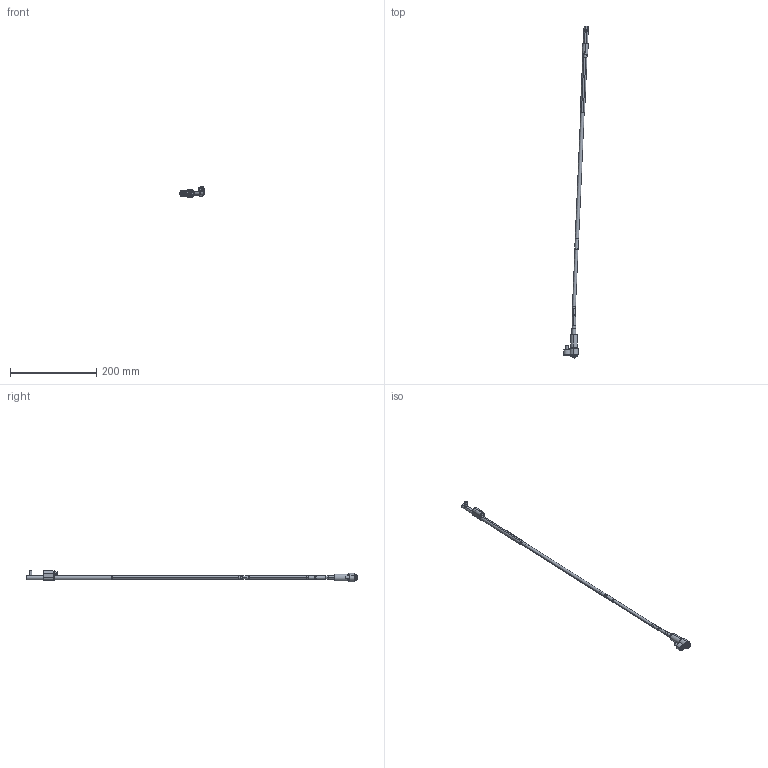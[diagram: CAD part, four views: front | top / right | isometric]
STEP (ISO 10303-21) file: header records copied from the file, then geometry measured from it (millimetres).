
FILE_DESCRIPTION (( 'STEP AP214' ), '1' );
FILE_NAME ('WL080125-EJE 2,5°.STEP', '2021-03-19T15:28:55', ( '' ), ( '' ), 'SwSTEP 2.0', 'SolidWorks 2019', '' );
FILE_SCHEMA (( 'AUTOMOTIVE_DESIGN' ));
Length unit declared in the file: millimetre
Products named in the file (17): WL080125-EJE 2,5°; 3IMAN4X2-150_con sello; Web-WL08-A1; 1DIN912616_DIN 912 M6 x 16 --- 16C; Web-WL08-F01; 1DIN912545_DIN 912 M5 x 50 --- 50C; Web-WL08-A2; Web-WL08-F00.SLDPRT; WL080100-B1_WL0800FF-1; Web-WP08-1; 9DR2206-TOR; WL080100-C; WL080100-D; WL080100-B_WL0800FF; Web-WL08XX-A7_ON-WL080125-2,5; WL080100-E; Web-WL08-A3
Assembly tree (16 placements, depth 3):
  WL080125-EJE 2,5°
    Web-WP08-1
    Web-WL08XX-A7_ON-WL080125-2,5
    Web-WL08-A3
    Web-WL08-A2
    Web-WL08-A1
    WL080100-D
    WL080100-C
    WL080100-B_WL0800FF
      WL080100-B1_WL0800FF-1
      3IMAN4X2-150_con sello
    WL080100-E
    9DR2206-TOR
    Web-WL08-F00.SLDPRT
      Web-WL08-F01
      1DIN912545_DIN 912 M5 x 50 --- 50C
      1DIN912616_DIN 912 M6 x 16 --- 16C
Bounding box: 57.42 x 771.58 x 26.9 mm (x, y, z)
Volume: 58701.6 mm3; surface area: 34416 mm2
Topology: 15 solids, 15 shells, 424 faces, 888 edges, 516 vertices
Faces by surface type: plane 132, cylinder 128, cone 116, torus 48
Entity records: 13492 total; most frequent: DIRECTION 2218, CARTESIAN_POINT 2045, ORIENTED_EDGE 1756, AXIS2_PLACEMENT_3D 921, EDGE_CURVE 878, VERTEX_POINT 516, CIRCLE 476, EDGE_LOOP 468
